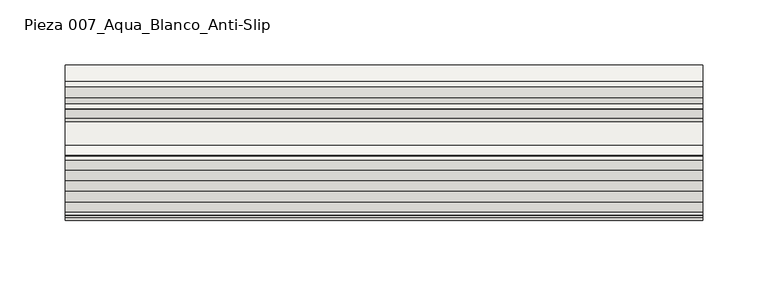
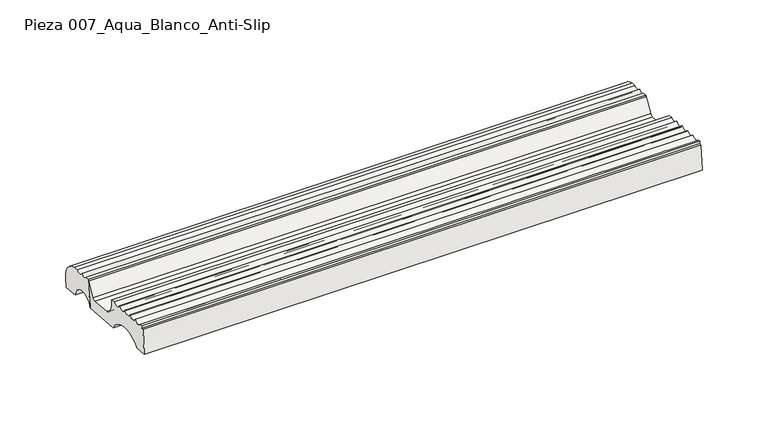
"""IFC4 building model written with IfcOpenShell, lengths in millimetres: slab geometry, ROSA GRES_007 : Pieza 007_Aqua_Blanco_Anti-Slip."""

from ifc_helpers import new_model, si_unit, point, frame, frame_2d, origin, place, context, project, spatial, polyline, circle_curve, trimmed, segment, composite_curve, outline, extrude, source, transform, mapped, element, save


def pieza_007_aqua_blanco_anti_slip_c353ac06(model_context):
    return source(origin(), model_context, "Body", "SweptSolid", [
        extrude(outline(composite_curve([segment(trimmed(circle_curve(frame_2d((-25.9545763, 173.0767428)), 11.6464304), [point((-14.3742659, 174.3159971))], [point((-37.1820416, 176.172444))], True, "CARTESIAN"), True, "CONTINUOUS"), segment(polyline([(-37.1820416, 176.172444), (-33.8762309, 200.4746837), (-29.9345538, 200.1538709)]), True, "CONTINUOUS"), segment(trimmed(circle_curve(frame_2d((-27.3971937, 201.142641)), 2.7232081), [point((-29.9345538, 200.1538709))], [point((-24.7247274, 200.6193952))], True, "CARTESIAN"), True, "CONTINUOUS"), segment(trimmed(circle_curve(frame_2d((-20.3008643, 202.7650351)), 4.9167404), [point((-24.7247274, 200.6193952))], [point((-16.9364731, 199.1796191))], True, "CARTESIAN"), True, "CONTINUOUS"), segment(polyline([(-16.9364731, 199.1796191), (-12.7748841, 198.875801)]), True, "CONTINUOUS"), segment(trimmed(circle_curve(frame_2d((-15.1536138, 183.7870899)), 15.2750633), [point((-12.7748841, 198.875801))], [point((0.0710994, 182.547869))], False, "CARTESIAN"), True, "CONTINUOUS"), segment(polyline([(0.0710994, 182.547869), (-0.6896004, 173.202129), (-14.3742659, 174.3159971)]), True, "CONTINUOUS")], self_intersect=False)), frame((0.0, 0.0, 0.0), z_axis=(1.0, 0.0, 0.0), x_axis=(0.0, 1.0, 0.0)), (0.0, 0.0, 1.0), 488.9701973),
        extrude(outline(composite_curve([segment(trimmed(circle_curve(frame_2d((-91.1625174, 167.3774726)), 22.5372595), [point((-71.8498608, 178.9942432))], [point((-108.342302, 181.9645582))], True, "CARTESIAN"), True, "CONTINUOUS"), segment(polyline([(-108.342302, 181.9645582), (-119.2900344, 182.8556525), (-117.4809059, 205.0820876), (-115.5338707, 204.9236084), (-115.3491545, 207.1930072), (-113.0660814, 207.0070959)]), True, "CONTINUOUS"), segment(trimmed(circle_curve(frame_2d((-109.1074243, 209.7932705)), 4.8408403), [point((-113.0660814, 207.0070959))], [point((-105.2742048, 206.836894))], True, "CARTESIAN"), True, "CONTINUOUS"), segment(trimmed(circle_curve(frame_2d((-100.9933064, 209.1504161)), 4.8660534), [point((-105.2742048, 206.836894))], [point((-97.1292049, 206.1928503))], True, "CARTESIAN"), True, "CONTINUOUS"), segment(trimmed(circle_curve(frame_2d((-92.9342908, 208.0451437)), 4.5856619), [point((-97.1292049, 206.1928503))], [point((-89.0833894, 205.555394))], True, "CARTESIAN"), True, "CONTINUOUS"), segment(trimmed(circle_curve(frame_2d((-84.8780848, 207.3839748)), 4.5856619), [point((-89.0833894, 205.555394))], [point((-81.0271834, 204.8942251))], True, "CARTESIAN"), True, "CONTINUOUS"), segment(trimmed(circle_curve(frame_2d((-76.8218788, 206.722806)), 4.5856619), [point((-81.0271834, 204.8942251))], [point((-73.3820924, 203.6902881))], True, "CARTESIAN"), True, "CONTINUOUS"), segment(polyline([(-73.3820924, 203.6902881), (-69.6579726, 203.3871621), (-69.3023399, 198.236672)]), True, "CONTINUOUS"), segment(trimmed(circle_curve(frame_2d((-57.0579989, 199.0821231)), 12.2734948), [point((-69.3023399, 198.236672))], [point((-61.867532, 187.7902205))], True, "CARTESIAN"), True, "CONTINUOUS"), segment(polyline([(-61.867532, 187.7902205), (-43.8250834, 186.3216491)]), True, "CONTINUOUS"), segment(trimmed(circle_curve(frame_2d((-43.5817022, 189.3117604)), 3.0), [point((-43.8250834, 186.3216491))], [point((-40.9402045, 187.8896178))], True, "CARTESIAN"), True, "CONTINUOUS"), segment(trimmed(circle_curve(frame_2d((-106.9597263, 233.2212806)), 80.084561), [point((-40.9402045, 187.8896178))], [point((-33.8762309, 200.4746837))], True, "CARTESIAN"), True, "CONTINUOUS"), segment(polyline([(-33.8762309, 200.4746837), (-37.1820416, 176.172444), (-71.8498608, 178.9942432)]), True, "CONTINUOUS")], self_intersect=False)), frame((0.0, 0.0, 0.0), z_axis=(1.0, 0.0, 0.0), x_axis=(0.0, 1.0, 0.0)), (0.0, 0.0, 1.0), 488.9701973),
    ])


if __name__ == "__main__":
    model = new_model("IFC4")
    model_context = context("Model", 3, world=origin())
    ifc_project = project(units=[si_unit("LENGTHUNIT", "METRE", prefix="MILLI")], contexts=[model_context])
    site = spatial("IfcSite", under=ifc_project)
    building = spatial("IfcBuilding", under=site)
    placement = place(None, origin())
    pieza_007_aqua_blanco_anti_slip_shape = pieza_007_aqua_blanco_anti_slip_c353ac06(model_context)
    element("IfcSlab", 1, ObjectType="ROSA GRES_007 : Pieza 007_Aqua_Blanco_Anti-Slip", at=placement, inside=building, context=model_context, shape_type="MappedRepresentation", body=[
        mapped(pieza_007_aqua_blanco_anti_slip_shape, transform((0.0, 0.0, 0.0), x_axis=(1.0, 0.0, 0.0), y_axis=(0.0, 1.0, 0.0), z_axis=(0.0, 0.0, 1.0))),
    ])
    save(model, "model.ifc")
